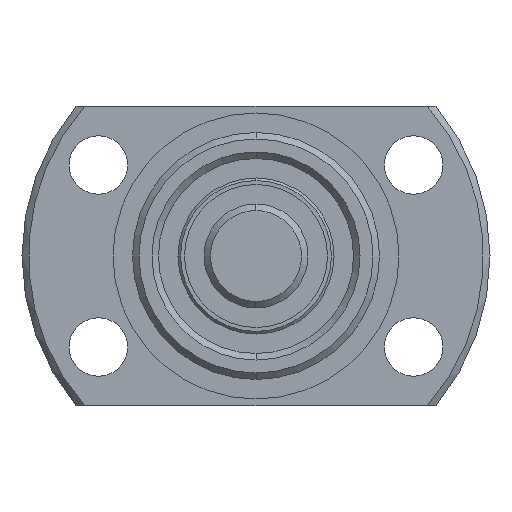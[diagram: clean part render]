
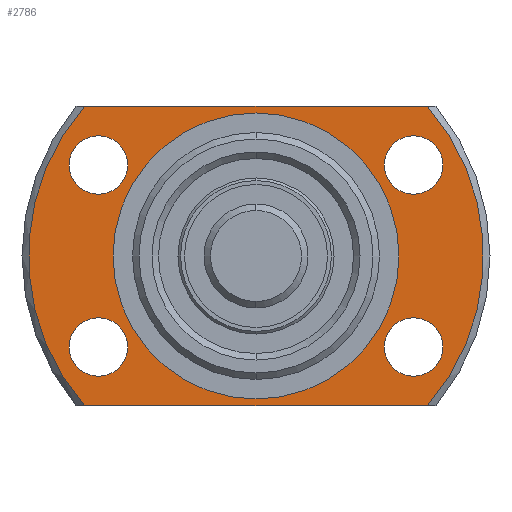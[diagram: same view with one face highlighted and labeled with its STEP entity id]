
A CAD part, left-side view. The second image highlights one B-rep face of the part: STEP entity #2786.
In plain terms, the highlighted planar face has unit normal (-1, 0, 0).
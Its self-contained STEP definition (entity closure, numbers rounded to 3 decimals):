
#1 = ORIENTED_EDGE ( 'NONE', *, *, #650, .T. ) ;
#2 = ORIENTED_EDGE ( 'NONE', *, *, #658, .F. ) ;
#3 = ORIENTED_EDGE ( 'NONE', *, *, #673, .T. ) ;
#75 = EDGE_LOOP ( 'NONE', ( #1647, #1546 ) ) ;
#77 = EDGE_LOOP ( 'NONE', ( #1398, #1643 ) ) ;
#87 = EDGE_LOOP ( 'NONE', ( #1653, #1493 ) ) ;
#89 = EDGE_LOOP ( 'NONE', ( #1564, #1397 ) ) ;
#92 = EDGE_LOOP ( 'NONE', ( #1495, #1565 ) ) ;
#166 = EDGE_LOOP ( 'NONE', ( #1633, #1, #2, #3 ) ) ;
#650 = EDGE_CURVE ( 'NONE', #1578, #1496, #1407, .T. ) ;
#651 = EDGE_CURVE ( 'NONE', #1554, #1523, #1388, .T. ) ;
#652 = EDGE_CURVE ( 'NONE', #1530, #1518, #1387, .T. ) ;
#653 = EDGE_CURVE ( 'NONE', #1522, #1567, #1385, .T. ) ;
#654 = EDGE_CURVE ( 'NONE', #1389, #1539, #1384, .T. ) ;
#655 = EDGE_CURVE ( 'NONE', #1506, #1463, #1383, .T. ) ;
#658 = EDGE_CURVE ( 'NONE', #1408, #1496, #1381, .T. ) ;
#673 = EDGE_CURVE ( 'NONE', #1408, #1552, #1366, .T. ) ;
#720 = EDGE_CURVE ( 'NONE', #1523, #1554, #1352, .T. ) ;
#726 = EDGE_CURVE ( 'NONE', #1539, #1389, #1346, .T. ) ;
#729 = EDGE_CURVE ( 'NONE', #1463, #1506, #1211, .T. ) ;
#777 = DIRECTION ( 'NONE',  ( 0., 0., 1. ) ) ;
#779 = DIRECTION ( 'NONE',  ( -1., 0., 0. ) ) ;
#780 = CARTESIAN_POINT ( 'NONE',  ( -5., 17.5, 0. ) ) ;
#781 = PLANE ( 'NONE',  #2619 ) ;
#801 = CARTESIAN_POINT ( 'NONE',  ( -5., 12.124, -7. ) ) ;
#818 = DIRECTION ( 'NONE',  ( -1., 0., 0. ) ) ;
#821 = DIRECTION ( 'NONE',  ( 0., 0., 1. ) ) ;
#834 = DIRECTION ( 'NONE',  ( 0., 0., 1. ) ) ;
#835 = DIRECTION ( 'NONE',  ( -1., 0., 0. ) ) ;
#837 = CARTESIAN_POINT ( 'NONE',  ( -5., 12.124, 7. ) ) ;
#903 = CIRCLE ( 'NONE', #2713, 17.5 ) ;
#954 = CIRCLE ( 'NONE', #2690, 2.25 ) ;
#960 = CIRCLE ( 'NONE', #2688, 2.25 ) ;
#1098 = FACE_OUTER_BOUND ( 'NONE', #166, .T. ) ;
#1099 = FACE_BOUND ( 'NONE', #75, .T. ) ;
#1100 = FACE_BOUND ( 'NONE', #77, .T. ) ;
#1101 = FACE_BOUND ( 'NONE', #89, .T. ) ;
#1102 = FACE_BOUND ( 'NONE', #92, .T. ) ;
#1103 = FACE_BOUND ( 'NONE', #87, .T. ) ;
#1107 = CARTESIAN_POINT ( 'NONE',  ( -5., -12.124, -9.25 ) ) ;
#1117 = CARTESIAN_POINT ( 'NONE',  ( -5., 13.191, -11.5 ) ) ;
#1136 = CARTESIAN_POINT ( 'NONE',  ( -5., -12.124, 9.25 ) ) ;
#1211 = CIRCLE ( 'NONE', #2579, 2.25 ) ;
#1346 = CIRCLE ( 'NONE', #2577, 2.25 ) ;
#1352 = CIRCLE ( 'NONE', #2574, 11. ) ;
#1363 = VECTOR ( 'NONE', #2331, 1000. ) ;
#1366 = LINE ( 'NONE', #2298, #1363 ) ;
#1381 = CIRCLE ( 'NONE', #3007, 17.5 ) ;
#1383 = CIRCLE ( 'NONE', #3006, 2.25 ) ;
#1384 = CIRCLE ( 'NONE', #3005, 2.25 ) ;
#1385 = CIRCLE ( 'NONE', #3004, 2.25 ) ;
#1386 = VECTOR ( 'NONE', #2319, 1000. ) ;
#1387 = CIRCLE ( 'NONE', #3003, 2.25 ) ;
#1388 = CIRCLE ( 'NONE', #3002, 11. ) ;
#1389 = VERTEX_POINT ( 'NONE', #1136 ) ;
#1397 = ORIENTED_EDGE ( 'NONE', *, *, #653, .F. ) ;
#1398 = ORIENTED_EDGE ( 'NONE', *, *, #2863, .F. ) ;
#1407 = LINE ( 'NONE', #2305, #1386 ) ;
#1408 = VERTEX_POINT ( 'NONE', #1117 ) ;
#1463 = VERTEX_POINT ( 'NONE', #1107 ) ;
#1493 = ORIENTED_EDGE ( 'NONE', *, *, #655, .F. ) ;
#1495 = ORIENTED_EDGE ( 'NONE', *, *, #726, .F. ) ;
#1496 = VERTEX_POINT ( 'NONE', #1758 ) ;
#1506 = VERTEX_POINT ( 'NONE', #1780 ) ;
#1518 = VERTEX_POINT ( 'NONE', #1760 ) ;
#1522 = VERTEX_POINT ( 'NONE', #2049 ) ;
#1523 = VERTEX_POINT ( 'NONE', #2029 ) ;
#1530 = VERTEX_POINT ( 'NONE', #2052 ) ;
#1539 = VERTEX_POINT ( 'NONE', #2041 ) ;
#1546 = ORIENTED_EDGE ( 'NONE', *, *, #720, .T. ) ;
#1552 = VERTEX_POINT ( 'NONE', #2022 ) ;
#1554 = VERTEX_POINT ( 'NONE', #2533 ) ;
#1564 = ORIENTED_EDGE ( 'NONE', *, *, #2859, .F. ) ;
#1565 = ORIENTED_EDGE ( 'NONE', *, *, #654, .F. ) ;
#1567 = VERTEX_POINT ( 'NONE', #2520 ) ;
#1578 = VERTEX_POINT ( 'NONE', #2525 ) ;
#1633 = ORIENTED_EDGE ( 'NONE', *, *, #2904, .F. ) ;
#1643 = ORIENTED_EDGE ( 'NONE', *, *, #652, .F. ) ;
#1647 = ORIENTED_EDGE ( 'NONE', *, *, #651, .T. ) ;
#1653 = ORIENTED_EDGE ( 'NONE', *, *, #729, .F. ) ;
#1758 = CARTESIAN_POINT ( 'NONE',  ( -5., 13.191, 11.5 ) ) ;
#1760 = CARTESIAN_POINT ( 'NONE',  ( -5., 12.124, -9.25 ) ) ;
#1780 = CARTESIAN_POINT ( 'NONE',  ( -5., -12.124, -4.75 ) ) ;
#2022 = CARTESIAN_POINT ( 'NONE',  ( -5., -13.191, -11.5 ) ) ;
#2029 = CARTESIAN_POINT ( 'NONE',  ( -5., 0., 11. ) ) ;
#2041 = CARTESIAN_POINT ( 'NONE',  ( -5., -12.124, 4.75 ) ) ;
#2049 = CARTESIAN_POINT ( 'NONE',  ( -5., 12.124, 9.25 ) ) ;
#2052 = CARTESIAN_POINT ( 'NONE',  ( -5., 12.124, -4.75 ) ) ;
#2100 = DIRECTION ( 'NONE',  ( 0., 0., -1. ) ) ;
#2102 = DIRECTION ( 'NONE',  ( 1., 0., 0. ) ) ;
#2106 = CARTESIAN_POINT ( 'NONE',  ( -5., 0., 0. ) ) ;
#2247 = DIRECTION ( 'NONE',  ( 0., 0., -1. ) ) ;
#2250 = DIRECTION ( 'NONE',  ( 1., 0., 0. ) ) ;
#2253 = CARTESIAN_POINT ( 'NONE',  ( -5., 0., 0. ) ) ;
#2257 = DIRECTION ( 'NONE',  ( 0., 0., 1. ) ) ;
#2258 = DIRECTION ( 'NONE',  ( -1., 0., 0. ) ) ;
#2259 = CARTESIAN_POINT ( 'NONE',  ( -5., -12.124, -7. ) ) ;
#2266 = DIRECTION ( 'NONE',  ( 0., 0., 1. ) ) ;
#2268 = DIRECTION ( 'NONE',  ( -1., 0., 0. ) ) ;
#2269 = CARTESIAN_POINT ( 'NONE',  ( -5., -12.124, 7. ) ) ;
#2298 = CARTESIAN_POINT ( 'NONE',  ( -5., 17.5, -11.5 ) ) ;
#2305 = CARTESIAN_POINT ( 'NONE',  ( -5., 17.5, 11.5 ) ) ;
#2319 = DIRECTION ( 'NONE',  ( 0., 1., 0. ) ) ;
#2331 = DIRECTION ( 'NONE',  ( 0., -1., 0. ) ) ;
#2344 = DIRECTION ( 'NONE',  ( 0., 0., -1. ) ) ;
#2345 = DIRECTION ( 'NONE',  ( 1., 0., 0. ) ) ;
#2346 = CARTESIAN_POINT ( 'NONE',  ( -5., 0., 0. ) ) ;
#2359 = DIRECTION ( 'NONE',  ( 0., 0., 1. ) ) ;
#2361 = DIRECTION ( 'NONE',  ( -1., 0., 0. ) ) ;
#2362 = CARTESIAN_POINT ( 'NONE',  ( -5., -12.124, -7. ) ) ;
#2365 = DIRECTION ( 'NONE',  ( 0., 0., 1. ) ) ;
#2366 = DIRECTION ( 'NONE',  ( -1., 0., 0. ) ) ;
#2367 = CARTESIAN_POINT ( 'NONE',  ( -5., -12.124, 7. ) ) ;
#2369 = DIRECTION ( 'NONE',  ( 0., 0., 1. ) ) ;
#2370 = DIRECTION ( 'NONE',  ( -1., 0., 0. ) ) ;
#2371 = CARTESIAN_POINT ( 'NONE',  ( -5., 12.124, 7. ) ) ;
#2372 = DIRECTION ( 'NONE',  ( 0., 0., 1. ) ) ;
#2373 = DIRECTION ( 'NONE',  ( -1., 0., 0. ) ) ;
#2374 = CARTESIAN_POINT ( 'NONE',  ( -5., 12.124, -7. ) ) ;
#2375 = DIRECTION ( 'NONE',  ( 0., 0., -1. ) ) ;
#2376 = DIRECTION ( 'NONE',  ( 1., 0., 0. ) ) ;
#2377 = CARTESIAN_POINT ( 'NONE',  ( -5., 0., 0. ) ) ;
#2520 = CARTESIAN_POINT ( 'NONE',  ( -5., 12.124, 4.75 ) ) ;
#2525 = CARTESIAN_POINT ( 'NONE',  ( -5., -13.191, 11.5 ) ) ;
#2533 = CARTESIAN_POINT ( 'NONE',  ( -5., 0., -11. ) ) ;
#2574 = AXIS2_PLACEMENT_3D ( 'NONE', #2253, #2250, #2247 ) ;
#2577 = AXIS2_PLACEMENT_3D ( 'NONE', #2269, #2268, #2266 ) ;
#2579 = AXIS2_PLACEMENT_3D ( 'NONE', #2259, #2258, #2257 ) ;
#2619 = AXIS2_PLACEMENT_3D ( 'NONE', #780, #779, #777 ) ;
#2688 = AXIS2_PLACEMENT_3D ( 'NONE', #837, #835, #834 ) ;
#2690 = AXIS2_PLACEMENT_3D ( 'NONE', #801, #818, #821 ) ;
#2713 = AXIS2_PLACEMENT_3D ( 'NONE', #2106, #2102, #2100 ) ;
#2786 = ADVANCED_FACE ( 'NONE', ( #1103, #1102, #1101, #1100, #1099, #1098 ), #781, .T. ) ;
#2859 = EDGE_CURVE ( 'NONE', #1567, #1522, #960, .T. ) ;
#2863 = EDGE_CURVE ( 'NONE', #1518, #1530, #954, .T. ) ;
#2904 = EDGE_CURVE ( 'NONE', #1578, #1552, #903, .T. ) ;
#3002 = AXIS2_PLACEMENT_3D ( 'NONE', #2377, #2376, #2375 ) ;
#3003 = AXIS2_PLACEMENT_3D ( 'NONE', #2374, #2373, #2372 ) ;
#3004 = AXIS2_PLACEMENT_3D ( 'NONE', #2371, #2370, #2369 ) ;
#3005 = AXIS2_PLACEMENT_3D ( 'NONE', #2367, #2366, #2365 ) ;
#3006 = AXIS2_PLACEMENT_3D ( 'NONE', #2362, #2361, #2359 ) ;
#3007 = AXIS2_PLACEMENT_3D ( 'NONE', #2346, #2345, #2344 ) ;
